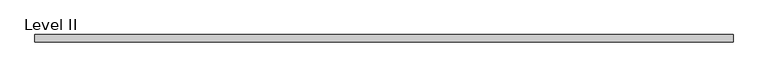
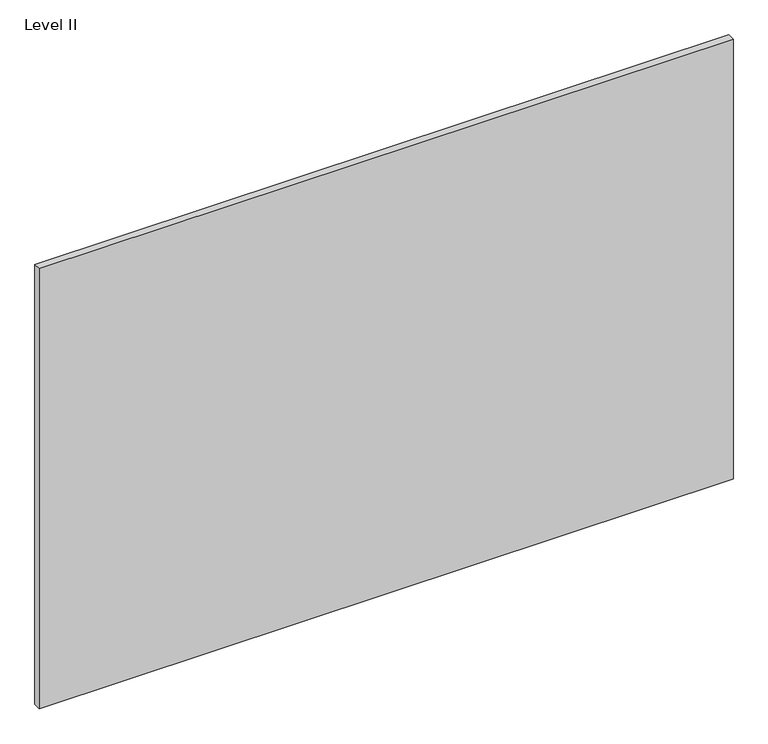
"""IFC4 building model written with IfcOpenShell, lengths in millimetres: proxy geometry, Panel-Fascia-Teknion-Altos-Standard : Level II."""

from ifc_helpers import new_model, si_unit, frame, origin, place, context, project, spatial, polyline, outline, extrude, source, transform, mapped, element, save


def level_ii_2f074b98(model_context):
    return source(origin(), model_context, "Body", "SweptSolid", [
        extrude(outline(polyline([(904.2300781, 9.525), (904.2300781, -9.525), (-904.2300781, -9.525), (-904.2300781, 9.525), (904.2300781, 9.525)])), frame((0.0, 0.0, 3.175), z_axis=(0.0, 0.0, 1.0), x_axis=(1.0, 0.0, 0.0)), (0.0, 0.0, 1.0), 1212.85),
    ])


if __name__ == "__main__":
    model = new_model("IFC4")
    model_context = context("Model", 3, world=origin())
    ifc_project = project(units=[si_unit("LENGTHUNIT", "METRE", prefix="MILLI")], contexts=[model_context])
    site = spatial("IfcSite", under=ifc_project)
    building = spatial("IfcBuilding", under=site)
    placement = place(None, origin())
    level_ii_shape = level_ii_2f074b98(model_context)
    element("IfcBuildingElementProxy", 1, Name="Panel-Fascia-Teknion-Altos-Standard : Level II", ObjectType="Panel-Fascia-Teknion-Altos-Standard : Level II", at=placement, inside=building, context=model_context, shape_type="MappedRepresentation", body=[
        mapped(level_ii_shape, transform((0.0, 0.0, 0.0), x_axis=(1.0, 0.0, 0.0), y_axis=(0.0, 1.0, 0.0), z_axis=(0.0, 0.0, 1.0))),
    ])
    save(model, "model.ifc")
